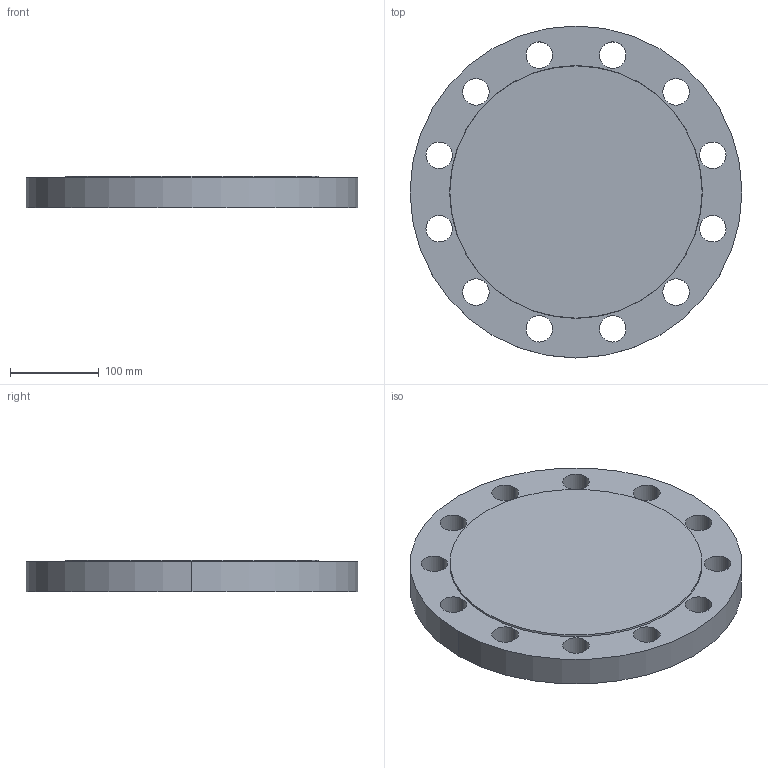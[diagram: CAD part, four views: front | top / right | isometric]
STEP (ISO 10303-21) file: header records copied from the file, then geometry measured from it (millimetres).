
FILE_DESCRIPTION (( 'STEP AP214' ), '1' );
FILE_NAME ('PN40 DN200 Type 05 - Type B Face.STEP', '2019-01-05T02:25:18', ( '' ), ( '' ), 'SwSTEP 2.0', 'SolidWorks 2019', '' );
FILE_SCHEMA (( 'AUTOMOTIVE_DESIGN' ));
Length unit declared in the file: millimetre
Products named in the file (1): PN40 DN200 Type 05 - Type B Face
Bounding box: 375 x 375 x 36 mm (x, y, z)
Volume: 3594690.7 mm3; surface area: 283941.5 mm2
Topology: 1 solids, 1 shells, 31 faces, 84 edges, 56 vertices
Faces by surface type: cylinder 26, plane 3, cone 2
Entity records: 1096 total; most frequent: DIRECTION 204, CARTESIAN_POINT 172, ORIENTED_EDGE 168, AXIS2_PLACEMENT_3D 88, EDGE_CURVE 84, CIRCLE 56, VERTEX_POINT 56, EDGE_LOOP 56
